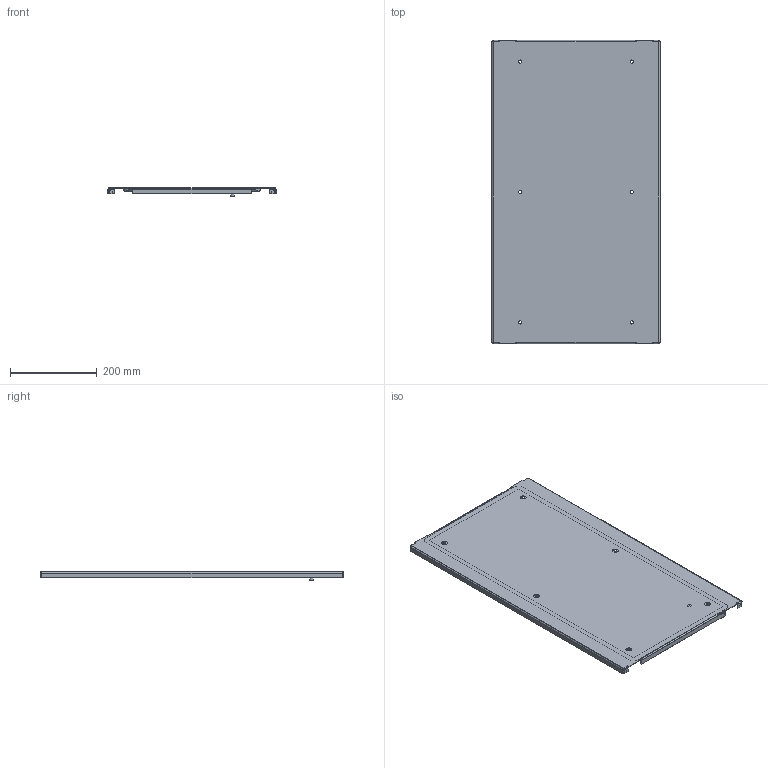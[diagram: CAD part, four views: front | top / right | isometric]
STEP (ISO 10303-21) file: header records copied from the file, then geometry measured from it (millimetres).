
FILE_DESCRIPTION(('STEP AP203'), '1');
FILE_NAME('Ïàíåëü ëèöåâàÿ ãëóõàÿ 500õ600 ìì OptiBox M 419497 ÊÝÀÇ', '', ('UNSPECIFIED'), ('UNSPECIFIED'), 'C3D Converter', 'C3D Toolkit', '');
FILE_SCHEMA(('CONFIG_CONTROL_DESIGN'));
Length unit declared in the file: millimetre
Bounding box: 386.4 x 697 x 18.9 mm (x, y, z)
Volume: 546826.1 mm3; surface area: 652834.9 mm2
Topology: 3 solids, 3 shells, 174 faces, 397 edges, 238 vertices
Faces by surface type: plane 111, cylinder 55, bspline 8
Full cylindrical faces by diameter (mm): 0.75 x1, 1 x1, 5 x2, 7.3 x6, 8 x1, 9.3 x1, 13 x1, 13.5 x6
Entity records: 5888 total; most frequent: CARTESIAN_POINT 2027, ORIENTED_EDGE 756, DIRECTION 754, EDGE_CURVE 378, LINE 264, VECTOR 264, AXIS2_PLACEMENT_3D 245, VERTEX_POINT 238
